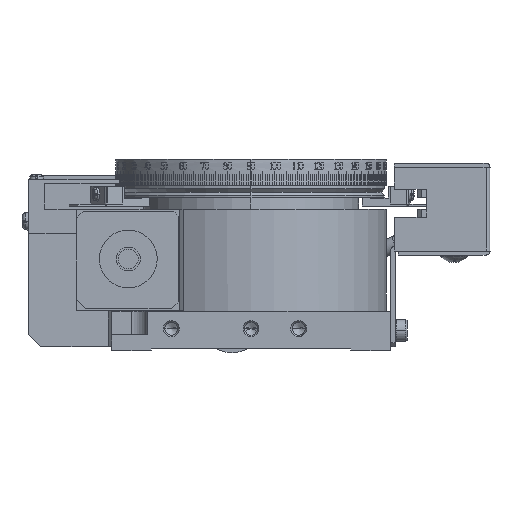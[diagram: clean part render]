
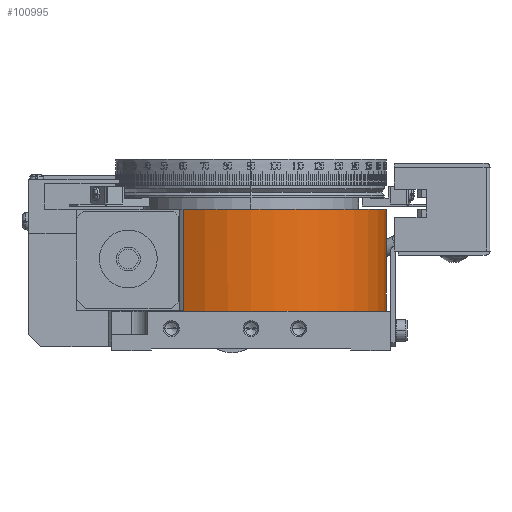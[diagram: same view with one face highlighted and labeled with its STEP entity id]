
A CAD part, left-side view. The second image highlights one B-rep face of the part: STEP entity #100995.
In plain terms, the highlighted cylindrical face has radius 33.9 mm (diameter 67.8 mm), a partial arc.
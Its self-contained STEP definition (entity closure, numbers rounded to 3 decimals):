
#2343 = ORIENTED_EDGE ( 'NONE', *, *, #49040, .F. ) ;
#2375 = DIRECTION ( 'NONE',  ( 0., 0., 1. ) ) ;
#3270 = EDGE_CURVE ( 'NONE', #67425, #14878, #131643, .T. ) ;
#7901 = DIRECTION ( 'NONE',  ( 0., 0., -1. ) ) ;
#13935 = CARTESIAN_POINT ( 'NONE',  ( 6.787, 118.519, 196.596 ) ) ;
#14878 = VERTEX_POINT ( 'NONE', #125183 ) ;
#19238 = EDGE_CURVE ( 'NONE', #82071, #125666, #115998, .T. ) ;
#20224 = CIRCLE ( 'NONE', #78038, 33.9 ) ;
#20329 = DIRECTION ( 'NONE',  ( 0., -1., 0. ) ) ;
#23861 = ORIENTED_EDGE ( 'NONE', *, *, #50250, .T. ) ;
#26435 = DIRECTION ( 'NONE',  ( 0., -1., 0. ) ) ;
#27259 = EDGE_LOOP ( 'NONE', ( #100473, #97116, #141715, #2343, #118754, #23861, #137640 ) ) ;
#28670 = CARTESIAN_POINT ( 'NONE',  ( 6.787, 152.419, 171.096 ) ) ;
#29174 = DIRECTION ( 'NONE',  ( 0., 0., -1. ) ) ;
#31311 = EDGE_CURVE ( 'NONE', #118659, #125666, #98554, .T. ) ;
#31467 = DIRECTION ( 'NONE',  ( 0., 1., 0. ) ) ;
#36450 = VECTOR ( 'NONE', #133523, 1000. ) ;
#37145 = FACE_OUTER_BOUND ( 'NONE', #27259, .T. ) ;
#38734 = DIRECTION ( 'NONE',  ( 0., 0., 1. ) ) ;
#44917 = DIRECTION ( 'NONE',  ( 0., -1., 0. ) ) ;
#49040 = EDGE_CURVE ( 'NONE', #67425, #94701, #145955, .T. ) ;
#49440 = CYLINDRICAL_SURFACE ( 'NONE', #85765, 33.9 ) ;
#50250 = EDGE_CURVE ( 'NONE', #14878, #82071, #89076, .T. ) ;
#57433 = AXIS2_PLACEMENT_3D ( 'NONE', #96667, #29174, #63628 ) ;
#62624 = EDGE_CURVE ( 'NONE', #138998, #94701, #72694, .T. ) ;
#63628 = DIRECTION ( 'NONE',  ( 0., -1., 0. ) ) ;
#64966 = DIRECTION ( 'NONE',  ( 0., 0., 1. ) ) ;
#64976 = DIRECTION ( 'NONE',  ( 0., 0., 1. ) ) ;
#65201 = CARTESIAN_POINT ( 'NONE',  ( 6.787, 152.419, 165.26 ) ) ;
#67425 = VERTEX_POINT ( 'NONE', #88318 ) ;
#70450 = CARTESIAN_POINT ( 'NONE',  ( 6.787, 118.519, 165.26 ) ) ;
#72694 = LINE ( 'NONE', #70450, #118376 ) ;
#73368 = EDGE_CURVE ( 'NONE', #118659, #138998, #20224, .T. ) ;
#78038 = AXIS2_PLACEMENT_3D ( 'NONE', #86222, #64966, #31467 ) ;
#82071 = VERTEX_POINT ( 'NONE', #92068 ) ;
#82634 = CARTESIAN_POINT ( 'NONE',  ( 6.787, 152.419, 196.596 ) ) ;
#85765 = AXIS2_PLACEMENT_3D ( 'NONE', #65201, #87929, #20329 ) ;
#86222 = CARTESIAN_POINT ( 'NONE',  ( 6.787, 152.419, 170.996 ) ) ;
#86775 = AXIS2_PLACEMENT_3D ( 'NONE', #82634, #38734, #26435 ) ;
#87929 = DIRECTION ( 'NONE',  ( 0., 0., 1. ) ) ;
#88318 = CARTESIAN_POINT ( 'NONE',  ( -22.542, 169.419, 196.596 ) ) ;
#89076 = CIRCLE ( 'NONE', #125662, 33.9 ) ;
#89700 = VECTOR ( 'NONE', #64976, 1000. ) ;
#92068 = CARTESIAN_POINT ( 'NONE',  ( -11.213, 181.145, 171.096 ) ) ;
#94701 = VERTEX_POINT ( 'NONE', #13935 ) ;
#96667 = CARTESIAN_POINT ( 'NONE',  ( 6.787, 152.419, 171.096 ) ) ;
#97116 = ORIENTED_EDGE ( 'NONE', *, *, #73368, .T. ) ;
#98554 = LINE ( 'NONE', #132538, #89700 ) ;
#100473 = ORIENTED_EDGE ( 'NONE', *, *, #31311, .F. ) ;
#100995 = ADVANCED_FACE ( 'NONE', ( #37145 ), #49440, .T. ) ;
#115998 = CIRCLE ( 'NONE', #57433, 33.9 ) ;
#118376 = VECTOR ( 'NONE', #2375, 1000. ) ;
#118659 = VERTEX_POINT ( 'NONE', #119815 ) ;
#118754 = ORIENTED_EDGE ( 'NONE', *, *, #3270, .T. ) ;
#119815 = CARTESIAN_POINT ( 'NONE',  ( 6.787, 186.319, 170.996 ) ) ;
#120764 = CARTESIAN_POINT ( 'NONE',  ( -22.542, 169.419, 196.597 ) ) ;
#121358 = CARTESIAN_POINT ( 'NONE',  ( 6.787, 118.519, 170.996 ) ) ;
#125183 = CARTESIAN_POINT ( 'NONE',  ( -22.542, 169.419, 171.096 ) ) ;
#125662 = AXIS2_PLACEMENT_3D ( 'NONE', #28670, #7901, #44917 ) ;
#125666 = VERTEX_POINT ( 'NONE', #133488 ) ;
#131643 = LINE ( 'NONE', #120764, #36450 ) ;
#132538 = CARTESIAN_POINT ( 'NONE',  ( 6.787, 186.319, 165.26 ) ) ;
#133488 = CARTESIAN_POINT ( 'NONE',  ( 6.787, 186.319, 171.096 ) ) ;
#133523 = DIRECTION ( 'NONE',  ( 0., 0., -1. ) ) ;
#137640 = ORIENTED_EDGE ( 'NONE', *, *, #19238, .T. ) ;
#138998 = VERTEX_POINT ( 'NONE', #121358 ) ;
#141715 = ORIENTED_EDGE ( 'NONE', *, *, #62624, .T. ) ;
#145955 = CIRCLE ( 'NONE', #86775, 33.9 ) ;
